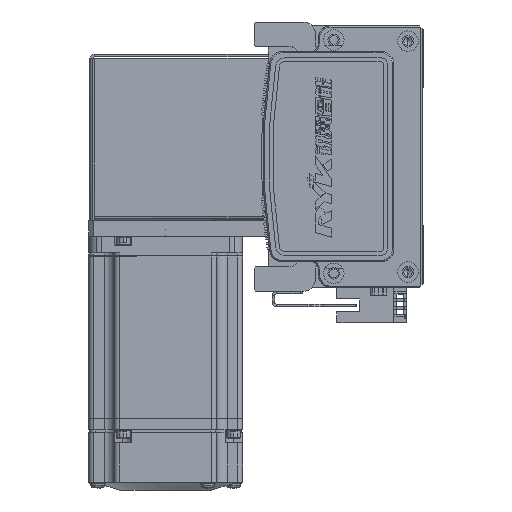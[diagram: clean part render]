
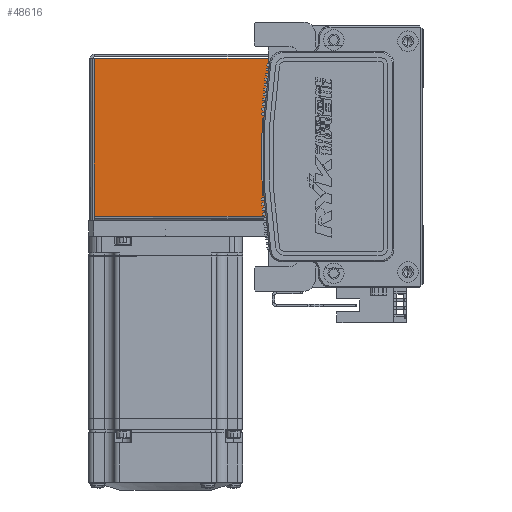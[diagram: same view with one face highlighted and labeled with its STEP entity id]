
A CAD part, left-side view. The second image highlights one B-rep face of the part: STEP entity #48616.
In plain terms, the highlighted planar face has unit normal (-1, 0, 0) as drawn and (0, 0, 1) by its records, which use the part's own axes.
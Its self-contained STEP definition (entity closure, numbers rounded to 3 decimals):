
#3090 = ORIENTED_EDGE ( 'NONE', *, *, #30791, .T. ) ;
#3243 = DIRECTION ( 'NONE',  ( -1., 0., 0. ) ) ;
#3342 = LINE ( 'NONE', #46420, #6957 ) ;
#5797 = CARTESIAN_POINT ( 'NONE',  ( -30.793, 68.5, 35. ) ) ;
#6460 = DIRECTION ( 'NONE',  ( -1., 0., 0. ) ) ;
#6957 = VECTOR ( 'NONE', #6460, 1000. ) ;
#9115 = CARTESIAN_POINT ( 'NONE',  ( -30.793, 0., 35. ) ) ;
#10072 = VERTEX_POINT ( 'NONE', #17992 ) ;
#10881 = ORIENTED_EDGE ( 'NONE', *, *, #44282, .F. ) ;
#12104 = LINE ( 'NONE', #9115, #21118 ) ;
#17992 = CARTESIAN_POINT ( 'NONE',  ( -30.793, 0.737, 35. ) ) ;
#18659 = VECTOR ( 'NONE', #56548, 1000. ) ;
#21007 = VERTEX_POINT ( 'NONE', #5797 ) ;
#21118 = VECTOR ( 'NONE', #73325, 1000. ) ;
#22048 = CARTESIAN_POINT ( 'NONE',  ( 30.763, 0.737, 35. ) ) ;
#23722 = FACE_OUTER_BOUND ( 'NONE', #45110, .T. ) ;
#26324 = CARTESIAN_POINT ( 'NONE',  ( -32.5, 0.737, 35. ) ) ;
#28164 = VERTEX_POINT ( 'NONE', #68048 ) ;
#30791 = EDGE_CURVE ( 'NONE', #28164, #21007, #3342, .T. ) ;
#30872 = AXIS2_PLACEMENT_3D ( 'NONE', #59953, #31213, #71552 ) ;
#31213 = DIRECTION ( 'NONE',  ( 0., 0., -1. ) ) ;
#37677 = VECTOR ( 'NONE', #3243, 1000. ) ;
#38267 = EDGE_CURVE ( 'NONE', #40875, #10072, #53024, .T. ) ;
#39062 = EDGE_CURVE ( 'NONE', #40875, #28164, #70053, .T. ) ;
#40875 = VERTEX_POINT ( 'NONE', #41164 ) ;
#41164 = CARTESIAN_POINT ( 'NONE',  ( 30.763, 0.737, 35. ) ) ;
#44282 = EDGE_CURVE ( 'NONE', #10072, #21007, #12104, .T. ) ;
#45110 = EDGE_LOOP ( 'NONE', ( #47394, #3090, #10881, #66067 ) ) ;
#46420 = CARTESIAN_POINT ( 'NONE',  ( 0., 68.5, 35. ) ) ;
#47394 = ORIENTED_EDGE ( 'NONE', *, *, #39062, .T. ) ;
#48616 = ADVANCED_FACE ( 'NONE', ( #23722 ), #54176, .F. ) ;
#53024 = LINE ( 'NONE', #26324, #37677 ) ;
#54176 = PLANE ( 'NONE',  #30872 ) ;
#56548 = DIRECTION ( 'NONE',  ( 0., 1., 0. ) ) ;
#59953 = CARTESIAN_POINT ( 'NONE',  ( 0., 0., 35. ) ) ;
#66067 = ORIENTED_EDGE ( 'NONE', *, *, #38267, .F. ) ;
#68048 = CARTESIAN_POINT ( 'NONE',  ( 30.763, 68.5, 35. ) ) ;
#70053 = LINE ( 'NONE', #22048, #18659 ) ;
#71552 = DIRECTION ( 'NONE',  ( -1., 0., 0. ) ) ;
#73325 = DIRECTION ( 'NONE',  ( 0., 1., 0. ) ) ;
